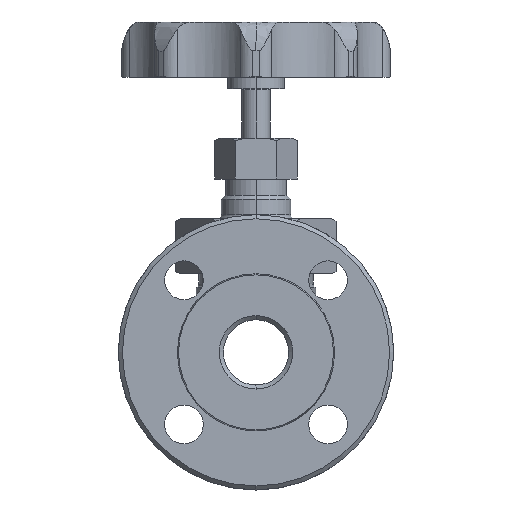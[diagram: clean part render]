
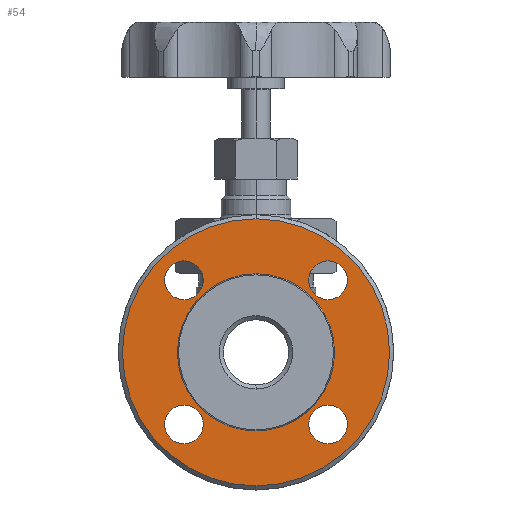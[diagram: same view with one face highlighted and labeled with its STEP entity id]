
A CAD part, left-side view. The second image highlights one B-rep face of the part: STEP entity #54.
In plain terms, the highlighted planar face has unit normal (-1, 0, 0).
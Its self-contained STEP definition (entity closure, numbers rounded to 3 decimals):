
#54=ADVANCED_FACE('',(#474,#475,#476,#477,#478,#479),#473,.F.);
#473=PLANE('',#3337);
#474=FACE_OUTER_BOUND('',#3338,.T.);
#475=FACE_BOUND('',#3339,.T.);
#476=FACE_BOUND('',#3340,.T.);
#477=FACE_BOUND('',#3341,.T.);
#478=FACE_BOUND('',#3342,.T.);
#479=FACE_BOUND('',#3343,.T.);
#3334=CARTESIAN_POINT('',(-78.,-123.449,75.5));
#3335=DIRECTION('',(1.,0.,0.));
#3336=DIRECTION('',(0.,0.,-1.));
#3337=AXIS2_PLACEMENT_3D('',#3334,#3335,#3336);
#3338=EDGE_LOOP('',(#5703,#5704));
#3339=EDGE_LOOP('',(#5705,#5706));
#3340=EDGE_LOOP('',(#5707,#5708));
#3341=EDGE_LOOP('',(#5709,#5710));
#3342=EDGE_LOOP('',(#5711,#5712));
#3343=EDGE_LOOP('',(#5713,#5714));
#5703=ORIENTED_EDGE('',*,*,#7352,.T.);
#5704=ORIENTED_EDGE('',*,*,#7353,.T.);
#5705=ORIENTED_EDGE('',*,*,#7354,.T.);
#5706=ORIENTED_EDGE('',*,*,#7355,.T.);
#5707=ORIENTED_EDGE('',*,*,#7356,.F.);
#5708=ORIENTED_EDGE('',*,*,#7357,.F.);
#5709=ORIENTED_EDGE('',*,*,#7358,.T.);
#5710=ORIENTED_EDGE('',*,*,#7359,.T.);
#5711=ORIENTED_EDGE('',*,*,#7360,.T.);
#5712=ORIENTED_EDGE('',*,*,#7361,.T.);
#5713=ORIENTED_EDGE('',*,*,#7362,.T.);
#5714=ORIENTED_EDGE('',*,*,#7363,.T.);
#7352=EDGE_CURVE('',#8651,#8652,#8653,.T.);
#7353=EDGE_CURVE('',#8652,#8651,#8659,.T.);
#7354=EDGE_CURVE('',#8665,#8666,#8667,.T.);
#7355=EDGE_CURVE('',#8666,#8665,#8673,.T.);
#7356=EDGE_CURVE('',#8679,#8680,#8681,.T.);
#7357=EDGE_CURVE('',#8680,#8679,#8687,.T.);
#7358=EDGE_CURVE('',#8693,#8694,#8695,.T.);
#7359=EDGE_CURVE('',#8694,#8693,#8701,.T.);
#7360=EDGE_CURVE('',#8707,#8708,#8709,.T.);
#7361=EDGE_CURVE('',#8708,#8707,#8715,.T.);
#7362=EDGE_CURVE('',#8721,#8722,#8723,.T.);
#7363=EDGE_CURVE('',#8722,#8721,#8729,.T.);
#8651=VERTEX_POINT('',#14064);
#8652=VERTEX_POINT('',#14065);
#8653=CIRCLE('',#14069,65.5);
#8659=CIRCLE('',#14073,65.5);
#8665=VERTEX_POINT('',#14074);
#8666=VERTEX_POINT('',#14075);
#8667=CIRCLE('',#14079,9.5);
#8673=CIRCLE('',#14083,9.5);
#8679=VERTEX_POINT('',#14084);
#8680=VERTEX_POINT('',#14085);
#8681=CIRCLE('',#14089,38.536);
#8687=CIRCLE('',#14093,38.536);
#8693=VERTEX_POINT('',#14094);
#8694=VERTEX_POINT('',#14095);
#8695=CIRCLE('',#14099,9.5);
#8701=CIRCLE('',#14103,9.5);
#8707=VERTEX_POINT('',#14104);
#8708=VERTEX_POINT('',#14105);
#8709=CIRCLE('',#14109,9.5);
#8715=CIRCLE('',#14113,9.5);
#8721=VERTEX_POINT('',#14114);
#8722=VERTEX_POINT('',#14115);
#8723=CIRCLE('',#14119,9.5);
#8729=CIRCLE('',#14123,9.5);
#14064=CARTESIAN_POINT('',(-78.,0.,65.5));
#14065=CARTESIAN_POINT('',(-78.,0.,-65.5));
#14066=CARTESIAN_POINT('',(-78.,0.,0.));
#14067=DIRECTION('',(-1.,0.,0.));
#14068=DIRECTION('',(0.,0.,1.));
#14069=AXIS2_PLACEMENT_3D('',#14066,#14067,#14068);
#14070=CARTESIAN_POINT('',(-78.,0.,0.));
#14071=DIRECTION('',(-1.,0.,0.));
#14072=DIRECTION('',(0.,0.,1.));
#14073=AXIS2_PLACEMENT_3D('',#14070,#14071,#14072);
#14074=CARTESIAN_POINT('',(-78.,35.355,-25.855));
#14075=CARTESIAN_POINT('',(-78.,35.355,-44.855));
#14076=CARTESIAN_POINT('',(-78.,35.355,-35.355));
#14077=DIRECTION('',(1.,0.,0.));
#14078=DIRECTION('',(0.,0.,1.));
#14079=AXIS2_PLACEMENT_3D('',#14076,#14077,#14078);
#14080=CARTESIAN_POINT('',(-78.,35.355,-35.355));
#14081=DIRECTION('',(1.,0.,0.));
#14082=DIRECTION('',(0.,0.,1.));
#14083=AXIS2_PLACEMENT_3D('',#14080,#14081,#14082);
#14084=CARTESIAN_POINT('',(-78.,0.,-38.536));
#14085=CARTESIAN_POINT('',(-78.,0.,38.536));
#14086=CARTESIAN_POINT('',(-78.,0.,0.));
#14087=DIRECTION('',(-1.,0.,0.));
#14088=DIRECTION('',(0.,0.,1.));
#14089=AXIS2_PLACEMENT_3D('',#14086,#14087,#14088);
#14090=CARTESIAN_POINT('',(-78.,0.,0.));
#14091=DIRECTION('',(-1.,0.,0.));
#14092=DIRECTION('',(0.,0.,1.));
#14093=AXIS2_PLACEMENT_3D('',#14090,#14091,#14092);
#14094=CARTESIAN_POINT('',(-78.,-35.355,44.855));
#14095=CARTESIAN_POINT('',(-78.,-35.355,25.855));
#14096=CARTESIAN_POINT('',(-78.,-35.355,35.355));
#14097=DIRECTION('',(1.,0.,0.));
#14098=DIRECTION('',(0.,0.,1.));
#14099=AXIS2_PLACEMENT_3D('',#14096,#14097,#14098);
#14100=CARTESIAN_POINT('',(-78.,-35.355,35.355));
#14101=DIRECTION('',(1.,0.,0.));
#14102=DIRECTION('',(0.,0.,1.));
#14103=AXIS2_PLACEMENT_3D('',#14100,#14101,#14102);
#14104=CARTESIAN_POINT('',(-78.,35.355,44.855));
#14105=CARTESIAN_POINT('',(-78.,35.355,25.855));
#14106=CARTESIAN_POINT('',(-78.,35.355,35.355));
#14107=DIRECTION('',(1.,0.,0.));
#14108=DIRECTION('',(0.,0.,1.));
#14109=AXIS2_PLACEMENT_3D('',#14106,#14107,#14108);
#14110=CARTESIAN_POINT('',(-78.,35.355,35.355));
#14111=DIRECTION('',(1.,0.,0.));
#14112=DIRECTION('',(0.,0.,1.));
#14113=AXIS2_PLACEMENT_3D('',#14110,#14111,#14112);
#14114=CARTESIAN_POINT('',(-78.,-35.355,-25.855));
#14115=CARTESIAN_POINT('',(-78.,-35.355,-44.855));
#14116=CARTESIAN_POINT('',(-78.,-35.355,-35.355));
#14117=DIRECTION('',(1.,0.,0.));
#14118=DIRECTION('',(0.,0.,1.));
#14119=AXIS2_PLACEMENT_3D('',#14116,#14117,#14118);
#14120=CARTESIAN_POINT('',(-78.,-35.355,-35.355));
#14121=DIRECTION('',(1.,0.,0.));
#14122=DIRECTION('',(0.,0.,1.));
#14123=AXIS2_PLACEMENT_3D('',#14120,#14121,#14122);
